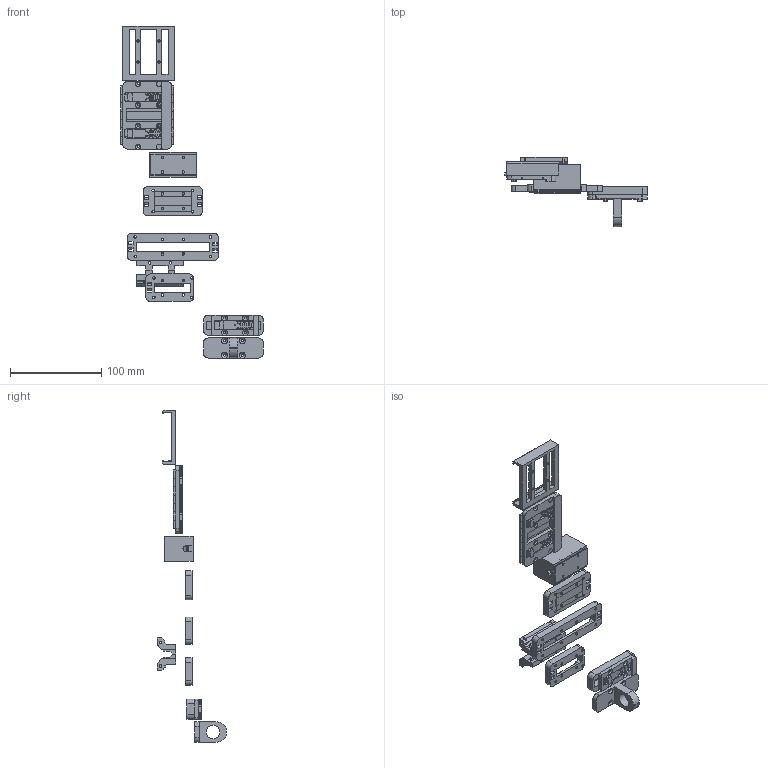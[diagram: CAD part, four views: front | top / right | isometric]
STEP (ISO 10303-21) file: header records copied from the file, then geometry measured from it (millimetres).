
FILE_DESCRIPTION(/* description */ (''),/* implementation_level */ '2;1');
FILE_NAME(/* name */ 'DIN.step',/* time_stamp */ '2026-08-27T15:49:51-04:00',/* author */ (''),/* organization */ (''),/* preprocessor_version */ 'ST-DEVELOPER v20.1',/* originating_system */ 'Autodesk Translation Framework v15.8.0.0',/* authorisation */ '');
FILE_SCHEMA (('AUTOMOTIVE_DESIGN { 1 0 10303 214 3 1 1 }'));
Length unit declared in the file: millimetre
Products named in the file (29): DIN; breadboard; combined; prototyping-boards; prototype-20x80; prototype-20x40; stepper-driver; Board; esp32; Core; Core_1; Header; Connector; Connector_1; Connector_2; Connector_3; Connector_4; Pin; magnet; magnet-wall; magnets; magnet (1); din-mount-4-column; ethernet; cover; magnet-single; din-mount-2-column; cover-3x; Hanging Hooks
Assembly tree (38 placements, depth 7):
  DIN
    breadboard
      combined
    prototyping-boards
      prototype-20x80
      prototype-20x40
      stepper-driver
        Board
      esp32
        Core
        Core_1
          Header
            Connector
              Pin
            Connector_1
              Pin
            Connector_2
              Pin
            Connector_3
              Pin
            Connector_4
              Pin
    magnet
      magnet-wall
        magnets
          magnet (1)  x7
        din-mount-4-column
    ethernet
      cover
    magnet-single
      din-mount-2-column
      cover-3x
    Hanging Hooks
Bounding box: 156.38 x 75.95 x 364.57 mm (x, y, z)
Volume: 120333.3 mm3; surface area: 93294.9 mm2
Topology: 25 solids, 25 shells, 1048 faces, 3001 edges, 1962 vertices
Faces by surface type: plane 747, cylinder 265, cone 36
Full cylindrical faces by diameter (mm): 1 x1, 2.75 x64, 6 x4, 15 x1
Entity records: 34323 total; most frequent: CARTESIAN_POINT 5990, ORIENTED_EDGE 5882, DIRECTION 5731, EDGE_CURVE 2941, LINE 2253, VECTOR 2253, VERTEX_POINT 1914, AXIS2_PLACEMENT_3D 1739
